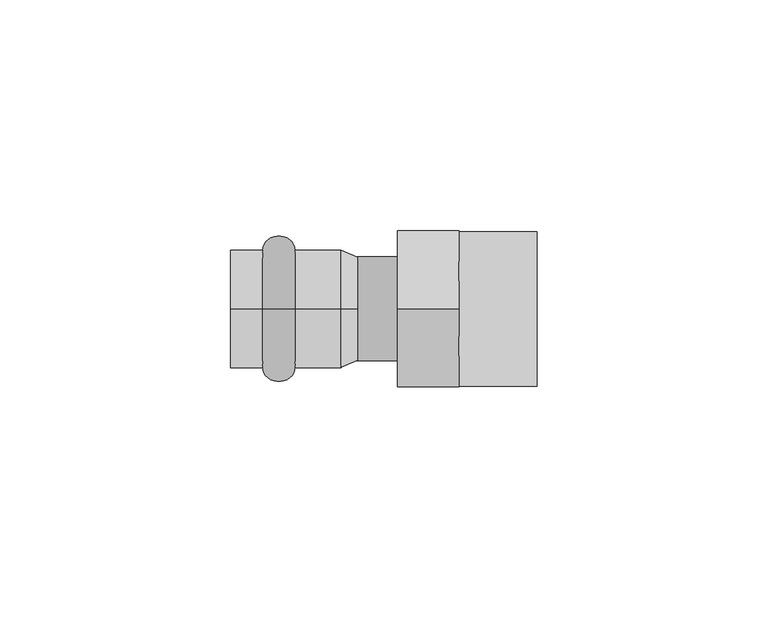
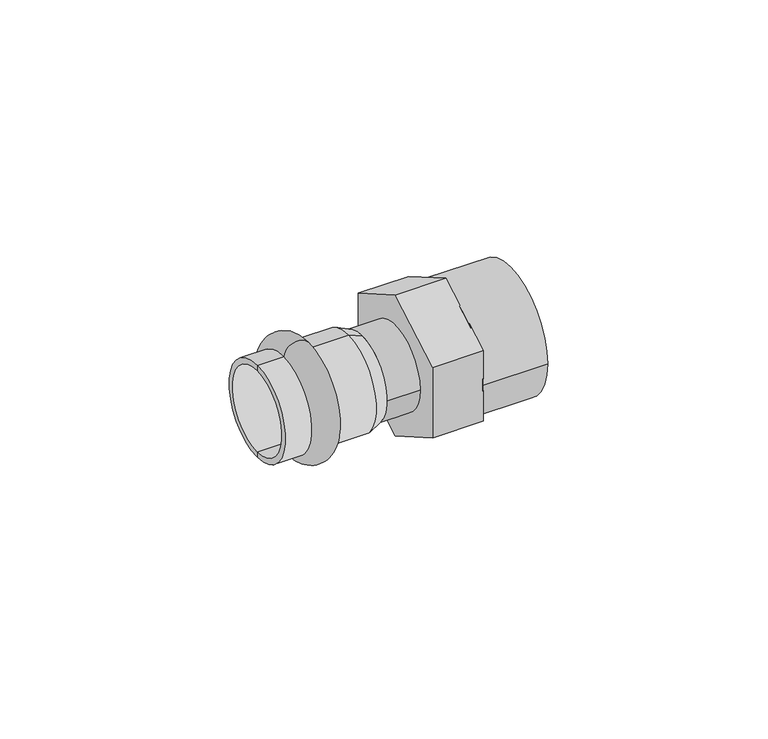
"""IFC4 building model written with IfcOpenShell, lengths in millimetres: pipe fitting geometry."""

import ifcopenshell
import ifcopenshell.guid

model = None  # the IFC model being written
_history = None  # IfcOwnerHistory: only IFC2X3 demands one
_inside = {}  # id of a spatial element -> (the spatial element, [elements in it])
_under = {}  # id of a project, library or spatial element -> (it, [spatial elements below it])
_declared = {}  # id of a project -> (the project, [libraries it declares])
_typed = {}  # id of a type object -> (the type object, [elements of that type])
_made_of = {}  # id of a material, layer set ... -> (it, [elements and type objects made of it])


def new_model(schema):
    """Start an empty IFC model of exactly this schema.

    Asked for "IFC4X3", IfcOpenShell would pick the latest addendum, in which some entities
    have other attributes; the version numbers below select the first issue.
    IFC2X3 requires an IfcOwnerHistory on every rooted entity: one is made here for all.
    """
    global model, _history
    if schema == "IFC4X3":
        model = ifcopenshell.file(schema_version=(4, 3, 0, 0))
    else:
        model = ifcopenshell.file(schema=schema)
    _inside.clear()
    _under.clear()
    _declared.clear()
    _typed.clear()
    _made_of.clear()
    _history = None
    if model.schema == "IFC2X3":
        org = make("IfcOrganization", Name="unknown")
        user = make(
            "IfcPersonAndOrganization",
            ThePerson=make("IfcPerson", FamilyName="unknown"),
            TheOrganization=org,
        )
        app = make(
            "IfcApplication",
            ApplicationDeveloper=org,
            Version="unknown",
            ApplicationFullName="unknown",
            ApplicationIdentifier="unknown",
        )
        _history = make(
            "IfcOwnerHistory",
            OwningUser=user,
            OwningApplication=app,
            ChangeAction="ADDED",
            CreationDate=0,
        )
    return model


def make(cls, **values):
    """One entity of the class cls with the attributes given. An attribute that is None is left unset."""
    return model.create_entity(
        cls, **{name: value for name, value in values.items() if value is not None}
    )


def rooted(cls, **values):
    """An entity with a GlobalId (a new one), such as an element, a storey or a relation."""
    return make(cls, GlobalId=ifcopenshell.guid.new(), OwnerHistory=_history, **values)


def si_unit(unit_type, name, prefix=None):
    """IfcSIUnit, for example si_unit("LENGTHUNIT", "METRE", prefix="MILLI")."""
    return make("IfcSIUnit", UnitType=unit_type, Prefix=prefix, Name=name)


def assignment(units):
    """IfcUnitAssignment: the units of a project."""
    return None if units is None else make("IfcUnitAssignment", Units=units)


def point(xyz):
    """IfcCartesianPoint."""
    return None if xyz is None else make("IfcCartesianPoint", Coordinates=xyz)


def direction(xyz):
    """IfcDirection."""
    return None if xyz is None else make("IfcDirection", DirectionRatios=xyz)


def frame(location, z_axis=None, x_axis=None):
    """IfcAxis2Placement3D, a coordinate frame: its origin and axes. An axis left out is left unset."""
    return make(
        "IfcAxis2Placement3D",
        Location=point(location),
        Axis=direction(z_axis),
        RefDirection=direction(x_axis),
    )


def frame_2d(location, x_axis=None):
    """IfcAxis2Placement2D, a coordinate frame in the plane: its origin and x axis."""
    return make(
        "IfcAxis2Placement2D", Location=point(location), RefDirection=direction(x_axis)
    )


def origin():
    """The frame at (0, 0, 0) with its axes left unset."""
    return frame((0.0, 0.0, 0.0))


def origin_2d():
    """The frame at (0, 0) in the plane with its x axis left unset."""
    return frame_2d((0.0, 0.0))


def place(relative_to, where):
    """IfcLocalPlacement: puts the frame where relative to a parent placement (None: the world)."""
    return make(
        "IfcLocalPlacement", PlacementRelTo=relative_to, RelativePlacement=where
    )


def context(
    kind, dimensions, precision=None, world=None, true_north=None, identifier=None
):
    """IfcGeometricRepresentationContext, for example the 3D "Model" context."""
    return make(
        "IfcGeometricRepresentationContext",
        ContextIdentifier=identifier,
        ContextType=kind,
        CoordinateSpaceDimension=dimensions,
        Precision=precision,
        WorldCoordinateSystem=world,
        TrueNorth=true_north,
    )


def project(units=None, contexts=None):
    """IfcProject with its units and contexts."""
    return rooted(
        "IfcProject",
        Name="project",
        RepresentationContexts=contexts,
        UnitsInContext=assignment(units),
    )


def spatial(cls, under=None, at=None, **own):
    """A site, building, storey or space (cls), placed at a placement, below another one or the project."""
    s = rooted(cls, ObjectPlacement=at, **own)
    if under is not None:
        _under.setdefault(under.id(), (under, []))[1].append(s)
    return s


def polyline(points):
    """IfcPolyline through the points."""
    return make("IfcPolyline", Points=[point(p) for p in points])


def circle_curve(where, radius):
    """IfcCircle in the frame where."""
    return make("IfcCircle", Position=where, Radius=radius)


def ellipse_curve(where, semi_axis1, semi_axis2):
    """IfcEllipse in the frame where."""
    return make(
        "IfcEllipse", Position=where, SemiAxis1=semi_axis1, SemiAxis2=semi_axis2
    )


def trimmed(basis, trim1, trim2, sense, master):
    """IfcTrimmedCurve: the piece of a basis curve between two trims."""
    return make(
        "IfcTrimmedCurve",
        BasisCurve=basis,
        Trim1=trim1,
        Trim2=trim2,
        SenseAgreement=sense,
        MasterRepresentation=master,
    )


def segment(curve, same_sense, transition):
    """IfcCompositeCurveSegment."""
    return make(
        "IfcCompositeCurveSegment",
        Transition=transition,
        SameSense=same_sense,
        ParentCurve=curve,
    )


def composite_curve(segments, self_intersect=None):
    """IfcCompositeCurve: segments joined end to end."""
    return make("IfcCompositeCurve", Segments=segments, SelfIntersect=self_intersect)


def outline(outer, holes=None, kind="AREA"):
    """IfcArbitraryClosedProfileDef: a profile drawn as a closed curve; with holes, ...WithVoids."""
    if holes is None:
        return make("IfcArbitraryClosedProfileDef", ProfileType=kind, OuterCurve=outer)
    return make(
        "IfcArbitraryProfileDefWithVoids",
        ProfileType=kind,
        OuterCurve=outer,
        InnerCurves=holes,
    )


def extrude(swept, where, along, depth):
    """IfcExtrudedAreaSolid: the profile swept, set in the frame where, extruded along a direction by depth."""
    return make(
        "IfcExtrudedAreaSolid",
        SweptArea=swept,
        Position=where,
        ExtrudedDirection=direction(along),
        Depth=depth,
    )


def shape(context_of_items, identifier, shape_type, items):
    """IfcShapeRepresentation: the items that make up one representation, for example the "Body"."""
    return make(
        "IfcShapeRepresentation",
        ContextOfItems=context_of_items,
        RepresentationIdentifier=identifier,
        RepresentationType=shape_type,
        Items=items,
    )


def source(mapping_origin, context_of_items, identifier, shape_type, items):
    """IfcRepresentationMap: a shape defined once, which mapped items show again and again."""
    return make(
        "IfcRepresentationMap",
        MappingOrigin=mapping_origin,
        MappedRepresentation=shape(context_of_items, identifier, shape_type, items),
    )


def transform(
    local_origin,
    x_axis=None,
    y_axis=None,
    z_axis=None,
    scale=None,
    scale2=None,
    scale3=None,
    uniform=True,
):
    """IfcCartesianTransformationOperator3D, or its non-uniform kind. x_axis, y_axis, z_axis: its Axis1, 2, 3."""
    if uniform:
        return make(
            "IfcCartesianTransformationOperator3D",
            Axis1=direction(x_axis),
            Axis2=direction(y_axis),
            LocalOrigin=point(local_origin),
            Scale=scale,
            Axis3=direction(z_axis),
        )
    return make(
        "IfcCartesianTransformationOperator3DnonUniform",
        Axis1=direction(x_axis),
        Axis2=direction(y_axis),
        LocalOrigin=point(local_origin),
        Scale=scale,
        Axis3=direction(z_axis),
        Scale2=scale2,
        Scale3=scale3,
    )


def mapped(mapping_source, mapping_target):
    """IfcMappedItem: shows the shape of a source again, moved by a transform."""
    return make(
        "IfcMappedItem", MappingSource=mapping_source, MappingTarget=mapping_target
    )


def made_of(thing, what):
    """Note that an element or type object is made of a material, layer set ...; save() writes the relation."""
    if what is not None:
        _made_of.setdefault(what.id(), (what, []))[1].append(thing)
    return thing


def element(
    cls,
    number,
    at=None,
    inside=None,
    cuts=None,
    type_object=None,
    material=None,
    context=None,
    identifier="Body",
    shape_type=None,
    held_by="IfcProductDefinitionShape",
    body=None,
    shapes=None,
    **own,
):
    """One element of the class cls, such as IfcWall. Its Tag is "e" and its number.

    at: its placement. inside: the storey or other place that contains it. cuts: it is an
    opening in that element (IfcRelVoidsElement). A single representation is given by context,
    identifier, shape_type and body (its items); several are given by shapes. held_by: the class
    of the entity that holds the representations. save() writes the other relations.
    """
    e = rooted(cls, Tag="e%d" % number, ObjectPlacement=at, **own)
    if body is not None:
        shapes = [shape(context, identifier, shape_type, body)]
    if shapes is not None:
        e.Representation = make(held_by, Representations=shapes)
    if inside is not None:
        _inside.setdefault(inside.id(), (inside, []))[1].append(e)
    if cuts is not None:
        rooted(
            "IfcRelVoidsElement", RelatingBuildingElement=cuts, RelatedOpeningElement=e
        )
    if type_object is not None:
        _typed.setdefault(type_object.id(), (type_object, []))[1].append(e)
    return made_of(e, material)


def aggregate(whole, parts):
    """IfcRelAggregates: a whole, such as a stair, and the parts it consists of."""
    return rooted("IfcRelAggregates", RelatingObject=whole, RelatedObjects=parts)


def save(model, path):
    """Write the relations noted so far, then the file.

    IfcRelAggregates (storeys below a building ...), IfcRelContainedInSpatialStructure (elements
    in a storey), IfcRelDefinesByType, IfcRelAssociatesMaterial and IfcRelDeclares: one each for
    every whole, place, type object, material and project.
    """
    for whole, parts in _under.values():
        aggregate(whole, parts)
    for where, things in _inside.values():
        rooted(
            "IfcRelContainedInSpatialStructure",
            RelatedElements=things,
            RelatingStructure=where,
        )
    for kind, things in _typed.values():
        rooted("IfcRelDefinesByType", RelatedObjects=things, RelatingType=kind)
    for what, things in _made_of.values():
        rooted("IfcRelAssociatesMaterial", RelatedObjects=things, RelatingMaterial=what)
    for by, libraries in _declared.values():
        rooted("IfcRelDeclares", RelatingContext=by, RelatedDefinitions=libraries)
    model.write(path)


def plane_surface(at):
    """IfcPlane: the flat surface through the origin of the frame at, square to its z axis."""
    return make("IfcPlane", Position=at)


def cylinder_surface(at, radius):
    """IfcCylindricalSurface: all points at the distance radius from the z axis of the frame at."""
    return make("IfcCylindricalSurface", Position=at, Radius=radius)


def revolved_surface(curve, axis_point, axis_direction):
    """IfcSurfaceOfRevolution: the curve turned about the line through axis_point along axis_direction."""
    return make(
        "IfcSurfaceOfRevolution",
        SweptCurve=make("IfcArbitraryOpenProfileDef", ProfileType="CURVE", Curve=curve),
        AxisPosition=make("IfcAxis1Placement", Location=point(axis_point), Axis=direction(axis_direction)),
    )


def advanced_brep(points, edges, surfaces, faces):
    """IfcAdvancedBrep: a solid bounded by faces that lie on surfaces and meet in shared edges.

    An edge is (start, end): straight between two places in points (the first is 0);
    or (start, end, curve); or (start, end, curve, False) where it runs against its curve.
    A face is (place in surfaces, loops), or (place, loops, False) where it looks against
    its surface's normal. A loop lists edges by number (the first is 1), with a minus sign
    where the edge is run from its end to its start. The first loop is the outer one.
    """
    corners = [point(p) for p in points]
    vertices = [make("IfcVertexPoint", VertexGeometry=c) for c in corners]
    made = []
    for start, end, *more in edges:
        made.append(
            make(
                "IfcEdgeCurve",
                EdgeStart=vertices[start],
                EdgeEnd=vertices[end],
                EdgeGeometry=more[0] if more else make("IfcPolyline", Points=[corners[start], corners[end]]),
                SameSense=more[1] if len(more) > 1 else True,
            )
        )
    hull = []
    for where, loops, *sense in faces:
        bounds = []
        for j, loop in enumerate(loops):
            ring = [make("IfcOrientedEdge", EdgeElement=made[abs(k) - 1], Orientation=k > 0) for k in loop]
            bounds.append(
                make(
                    "IfcFaceOuterBound" if j == 0 else "IfcFaceBound",
                    Bound=make("IfcEdgeLoop", EdgeList=ring),
                    Orientation=True,
                )
            )
        hull.append(make("IfcAdvancedFace", Bounds=bounds, FaceSurface=surfaces[where], SameSense=sense[0] if sense else True))
    return make("IfcAdvancedBrep", Outer=make("IfcClosedShell", CfsFaces=hull))


def pipe_fitting_e8b9939f(model_context):
    return source(origin(), model_context, "Body", "SolidModel", [
        advanced_brep(
        [(-17.0, 0.0, 12.75), (-17.0, 0.0, -12.75), (-10.0, 0.0, -12.75), (-10.0, 0.0, 12.75)],
        [
            (0, 1, circle_curve(frame((-17.0, 0.0, 0.0), z_axis=(-1.0, 0.0, 0.0), x_axis=(0.0, 0.0, -1.0)), 12.75)),
            (1, 2),
            (2, 3, circle_curve(frame((-10.0, 0.0, 0.0), z_axis=(1.0, 0.0, 0.0), x_axis=(0.0, 0.0, -1.0)), 12.75)),
            (3, 0),
            (1, 0, circle_curve(frame((-17.0, 0.0, 0.0), z_axis=(-1.0, 0.0, 0.0), x_axis=(0.0, 0.0, -1.0)), 12.75)),
            (3, 2, circle_curve(frame((-10.0, 0.0, 0.0), z_axis=(1.0, 0.0, 0.0), x_axis=(0.0, 0.0, -1.0)), 12.75)),
            (2, 1, ellipse_curve(frame((-13.5, 0.0, -12.75), z_axis=(0.0, 1.0, 0.0), x_axis=(-1.0, 0.0, 0.0)), 3.5, 3.1)),
            (0, 3, ellipse_curve(frame((-13.5, 0.0, 12.75), z_axis=(0.0, 1.0, 0.0), x_axis=(-1.0, 0.0, 0.0)), 3.5, 3.1)),
        ],
        [
            revolved_surface(polyline([(-10.0, 0.0, -12.75), (-17.0, 0.0, -12.75)]), (3.0, 0.0, 0.0), (1.0, 0.0, 0.0)),
            revolved_surface(trimmed(ellipse_curve(frame((-13.5, 0.0, -12.75), z_axis=(0.0, -1.0, 0.0), x_axis=(-1.0, 0.0, 0.0)), 3.5, 3.1), [point((-17.0, 0.0, -12.75))], [point((-10.0, 0.0, -12.75))], True, "CARTESIAN"), (3.0, 0.0, 0.0), (1.0, 0.0, 0.0)),
        ],
        [
            (0, [[1, 2, 3, 4]]),
            (0, [[5, -4, 6, -2]]),
            (1, [[-3, 7, -1, 8]]),
            (1, [[-6, -8, -5, -7]]),
        ],
    ),
        advanced_brep(
        [(3.5337785, 0.0, 11.25), (3.5337785, 0.0, -11.25), (0.0, 0.0, -12.75), (0.0, 0.0, 12.75), (-24.0, 0.0, 11.25), (-24.0, 0.0, -11.25), (-24.0, 0.0, 12.75), (-24.0, 0.0, -12.75)],
        [
            (0, 1, circle_curve(frame((3.5337785, 0.0, 0.0), z_axis=(-1.0, 0.0, 0.0), x_axis=(0.0, 0.0, -1.0)), 11.25)),
            (1, 2),
            (2, 3, circle_curve(frame((0.0, 0.0, 0.0), z_axis=(1.0, 0.0, 0.0), x_axis=(0.0, 0.0, -1.0)), 12.75)),
            (3, 0),
            (1, 0, circle_curve(frame((3.5337785, 0.0, 0.0), z_axis=(-1.0, 0.0, 0.0), x_axis=(0.0, 0.0, -1.0)), 11.25)),
            (3, 2, circle_curve(frame((0.0, 0.0, 0.0), z_axis=(1.0, 0.0, 0.0), x_axis=(0.0, 0.0, -1.0)), 12.75)),
            (4, 5, circle_curve(frame((-24.0, 0.0, 0.0), z_axis=(-1.0, 0.0, 0.0), x_axis=(0.0, 0.0, -1.0)), 11.25)),
            (5, 1),
            (0, 4),
            (5, 4, circle_curve(frame((-24.0, 0.0, 0.0), z_axis=(-1.0, 0.0, 0.0), x_axis=(0.0, 0.0, -1.0)), 11.25)),
            (6, 7, circle_curve(frame((-24.0, 0.0, 0.0), z_axis=(-1.0, 0.0, 0.0), x_axis=(0.0, 0.0, -1.0)), 12.75)),
            (7, 5),
            (4, 6),
            (7, 6, circle_curve(frame((-24.0, 0.0, 0.0), z_axis=(-1.0, 0.0, 0.0), x_axis=(0.0, 0.0, -1.0)), 12.75)),
            (2, 7),
            (6, 3),
        ],
        [
            revolved_surface(polyline([(0.0, 0.0, -12.75), (3.5337785, 0.0, -11.25)]), (3.0, 0.0, 0.0), (1.0, 0.0, 0.0)),
            revolved_surface(polyline([(3.5337785, 0.0, -11.25), (-24.0, 0.0, -11.25)]), (3.0, 0.0, 0.0), (1.0, 0.0, 0.0)),
            plane_surface(frame((-24.0, 0.0, 0.0), z_axis=(-1.0, 0.0, 0.0), x_axis=(0.0, 0.0, -1.0))),
            cylinder_surface(frame((3.0, 0.0, 0.0), z_axis=(1.0, 0.0, 0.0), x_axis=(0.0, 0.0, -1.0)), 12.75),
        ],
        [
            (0, [[1, 2, 3, 4]]),
            (0, [[5, -4, 6, -2]]),
            (1, [[7, 8, -1, 9]]),
            (1, [[10, -9, -5, -8]]),
            (2, [[11, 12, -7, 13]]),
            (2, [[14, -13, -10, -12]]),
            (3, [[-3, 15, -11, 16]]),
            (3, [[-6, -16, -14, -15]]),
        ],
    ),
        extrude(outline(composite_curve([segment(trimmed(circle_curve(origin_2d(), 16.75), [point((-16.75, 0.0))], [point((16.75, 0.0))], False, "CARTESIAN"), True, "CONTINUOUS"), segment(trimmed(circle_curve(origin_2d(), 16.75), [point((16.75, 0.0))], [point((-16.75, 0.0))], False, "CARTESIAN"), True, "CONTINUOUS")], self_intersect=False)), frame((25.5337785, 0.0, 0.0), z_axis=(1.0, 0.0, 0.0), x_axis=(0.0, 1.0, 0.0)), (0.0, 0.0, 1.0), 17.0),
        extrude(outline(composite_curve([segment(trimmed(circle_curve(origin_2d(), 11.25), [point((-11.25, 0.0))], [point((11.25, 0.0))], False, "CARTESIAN"), True, "CONTINUOUS"), segment(trimmed(circle_curve(origin_2d(), 11.25), [point((11.25, 0.0))], [point((-11.25, 0.0))], False, "CARTESIAN"), True, "CONTINUOUS")], self_intersect=False)), frame((3.5337785, 0.0, 0.0), z_axis=(1.0, 0.0, 0.0), x_axis=(0.0, 1.0, 0.0)), (0.0, 0.0, 1.0), 8.7),
        extrude(outline(polyline([(-16.95, 9.7860871), (0.0, 19.5721741), (16.95, 9.7860871), (16.95, -9.7860871), (0.0, -19.5721741), (-16.95, -9.7860871), (-16.95, 9.7860871)]), holes=[polyline([(0.0, -7.2168784), (6.25, -3.6084392), (6.25, 3.6084392), (0.0, 7.2168784), (-6.25, 3.6084392), (-6.25, -3.6084392), (0.0, -7.2168784)])]), frame((12.2337785, 0.0, 0.0), z_axis=(1.0, 0.0, 0.0), x_axis=(0.0, 1.0, 0.0)), (0.0, 0.0, 1.0), 13.3),
    ])


if __name__ == "__main__":
    model = new_model("IFC4")
    model_context = context("Model", 3, world=origin())
    ifc_project = project(units=[si_unit("LENGTHUNIT", "METRE", prefix="MILLI")], contexts=[model_context])
    site = spatial("IfcSite", under=ifc_project)
    building = spatial("IfcBuilding", under=site)
    placement = place(None, origin())
    pipe_fitting_shape = pipe_fitting_e8b9939f(model_context)
    element("IfcPipeFitting", 1, ObjectType="РЕХАУ_Пресс Муфта НР : 22 x R 1\"", at=placement, inside=building, context=model_context, shape_type="MappedRepresentation", body=[
        mapped(pipe_fitting_shape, transform((0.0, 0.0, 0.0), x_axis=(1.0, 0.0, 0.0), y_axis=(0.0, 1.0, 0.0), z_axis=(0.0, 0.0, 1.0))),
    ])
    save(model, "model.ifc")
